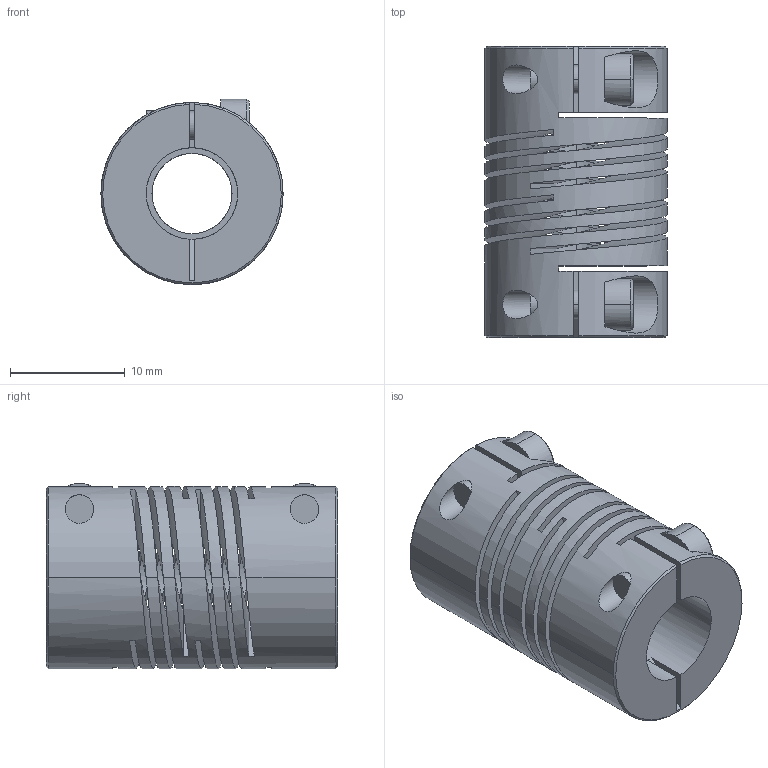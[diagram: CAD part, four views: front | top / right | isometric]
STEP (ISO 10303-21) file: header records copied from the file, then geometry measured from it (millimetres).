
FILE_DESCRIPTION((''),'2;1');
FILE_NAME('707_16','2006-12-06T',('Gary Melling'),(''),'PRO/ENGINEER BY PARAMETRIC TECHNOLOGY CORPORATION, 2006240','PRO/ENGINEER BY PARAMETRIC TECHNOLOGY CORPORATION, 2006240','');
FILE_SCHEMA(('CONFIG_CONTROL_DESIGN'));
Length unit declared in the file: millimetre
Products named in the file (1): 707_16
Bounding box: 15.9 x 25.4 x 16.17 mm (x, y, z)
Volume: 3263 mm3; surface area: 4552.5 mm2
Topology: 1 solids, 1 shells, 112 faces, 332 edges, 216 vertices
Faces by surface type: plane 58, cylinder 36, bspline 12, cone 6
Entity records: 5679 total; most frequent: CARTESIAN_POINT 2755, ORIENTED_EDGE 664, DIRECTION 514, EDGE_CURVE 332, VERTEX_POINT 216, VECTOR 182, LINE 182, AXIS2_PLACEMENT_3D 166
